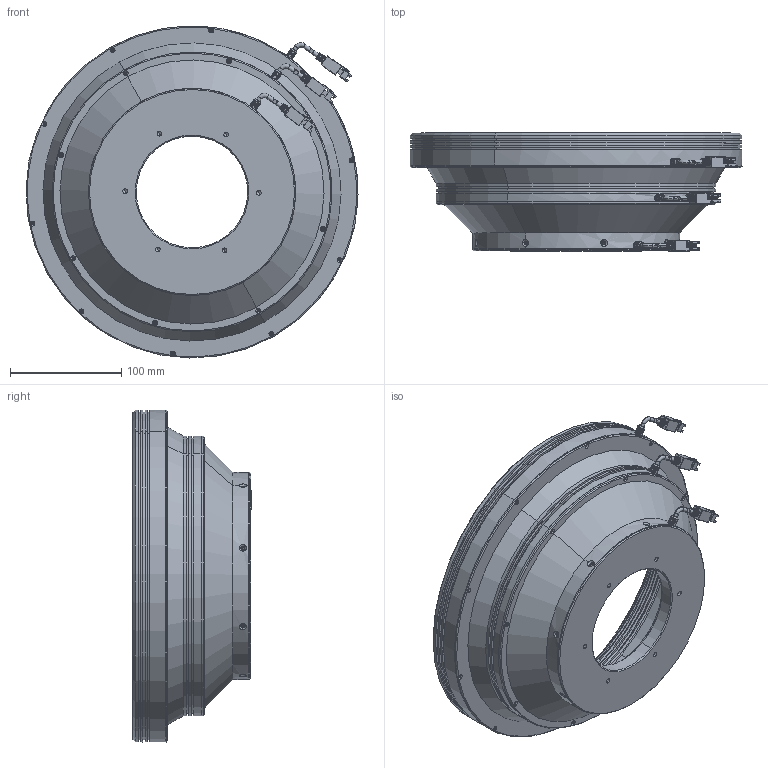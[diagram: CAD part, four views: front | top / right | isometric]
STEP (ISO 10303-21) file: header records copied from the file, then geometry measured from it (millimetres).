
FILE_DESCRIPTION (( 'STEP AP214' ), '1' );
FILE_NAME ('PPX-AOI298-Z-A1.STEP', '2019-09-10T03:37:29', ( '微软用户' ), ( '微软中国' ), 'SwSTEP 2.0', 'SolidWorks 2016', '' );
FILE_SCHEMA (( 'AUTOMOTIVE_DESIGN' ));
Length unit declared in the file: millimetre
Products named in the file (9): 两芯电源线 （母端） - 副本; PPX-AOI298-Z-A1.1中圈3; PPX-AOI298-Z-A1.1中圈2; PPX-AOI298-Z-A1.1中圈1; PPX-AOI298-Z-A1; PPX-AOI298-Z-A1.1灯珠（绿色）; PPX-AOI298-Z-A1.1灯珠（蓝色）; PPX-AOI298-Z-A1.1灯珠（红色）; PPX-AOI298-Z-A1.1菁啣
Assembly tree (10 placements, depth 2):
  PPX-AOI298-Z-A1
    PPX-AOI298-Z-A1.1中圈1
    PPX-AOI298-Z-A1.1中圈2
    PPX-AOI298-Z-A1.1中圈3
    两芯电源线 （母端） - 副本  x3
    PPX-AOI298-Z-A1.1菁啣
    PPX-AOI298-Z-A1.1灯珠（红色）
    PPX-AOI298-Z-A1.1灯珠（蓝色）
    PPX-AOI298-Z-A1.1灯珠（绿色）
Bounding box: 297.97 x 106.1 x 297.97 mm (x, y, z)
Volume: 997351.8 mm3; surface area: 578924.6 mm2
Topology: 13 solids, 13 shells, 1337 faces, 3317 edges, 2011 vertices
Faces by surface type: plane 509, cylinder 424, cone 278, torus 108, sphere 12, bspline 6
Entity records: 25820 total; most frequent: CARTESIAN_POINT 5556, DIRECTION 4324, ORIENTED_EDGE 3798, EDGE_CURVE 1899, AXIS2_PLACEMENT_3D 1697, VERTEX_POINT 1153, VECTOR 930, LINE 930
